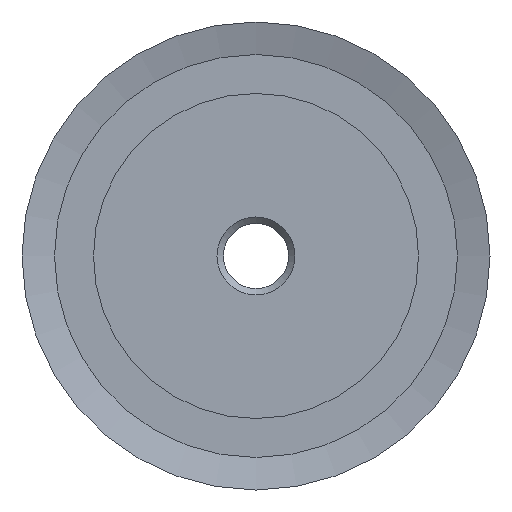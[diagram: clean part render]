
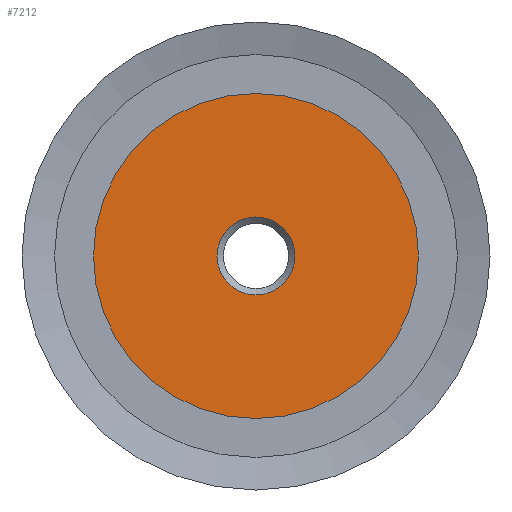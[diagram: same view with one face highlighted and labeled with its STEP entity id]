
A CAD part, left-side view. The second image highlights one B-rep face of the part: STEP entity #7212.
In plain terms, the highlighted planar face has unit normal (-1, 0, 0).
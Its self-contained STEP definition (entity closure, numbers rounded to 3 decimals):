
#38=FACE_BOUND('',#912,.T.);
#177=PLANE('',#8094);
#539=FACE_OUTER_BOUND('',#911,.T.);
#911=EDGE_LOOP('',(#6229));
#912=EDGE_LOOP('',(#6230));
#2630=CIRCLE('',#8093,3.);
#2631=CIRCLE('',#8095,12.5);
#3354=VERTEX_POINT('',#12557);
#3355=VERTEX_POINT('',#12561);
#4432=EDGE_CURVE('',#3354,#3354,#2630,.T.);
#4433=EDGE_CURVE('',#3355,#3355,#2631,.T.);
#6229=ORIENTED_EDGE('',*,*,#4433,.F.);
#6230=ORIENTED_EDGE('',*,*,#4432,.T.);
#7212=ADVANCED_FACE('',(#539,#38),#177,.T.);
#8093=AXIS2_PLACEMENT_3D('',#12559,#10351,#10352);
#8094=AXIS2_PLACEMENT_3D('',#12560,#10353,#10354);
#8095=AXIS2_PLACEMENT_3D('',#12562,#10355,#10356);
#10351=DIRECTION('center_axis',(1.,0.,0.));
#10352=DIRECTION('ref_axis',(0.,0.,-1.));
#10353=DIRECTION('center_axis',(-1.,0.,0.));
#10354=DIRECTION('ref_axis',(0.,0.,1.));
#10355=DIRECTION('center_axis',(1.,0.,0.));
#10356=DIRECTION('ref_axis',(0.,0.,-1.));
#12557=CARTESIAN_POINT('',(0.,-3.,0.));
#12559=CARTESIAN_POINT('Origin',(0.,0.,0.));
#12560=CARTESIAN_POINT('Origin',(0.,12.5,0.));
#12561=CARTESIAN_POINT('',(0.,-12.5,0.));
#12562=CARTESIAN_POINT('Origin',(0.,0.,0.));
